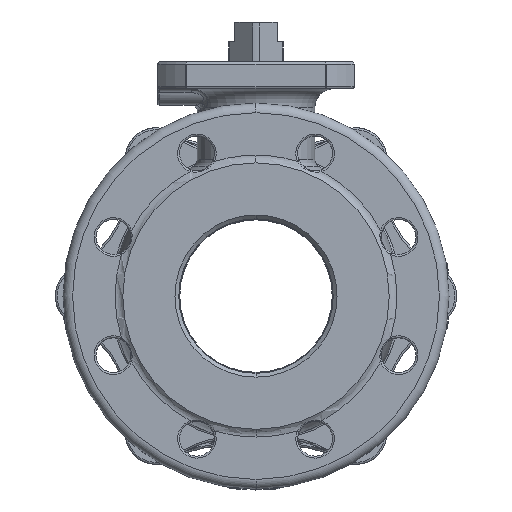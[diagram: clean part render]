
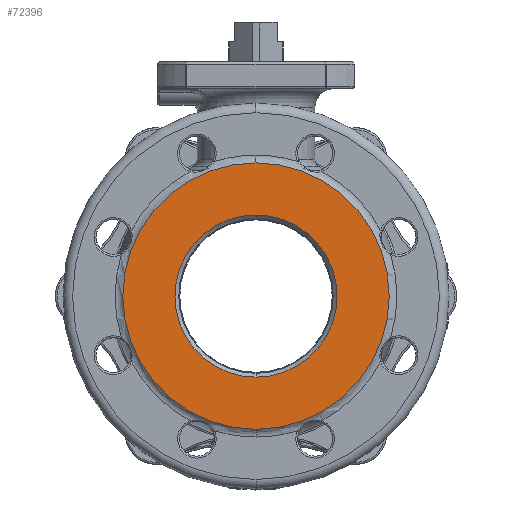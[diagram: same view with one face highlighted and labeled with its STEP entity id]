
A CAD part, left-side view. The second image highlights one B-rep face of the part: STEP entity #72396.
In plain terms, the highlighted planar face has unit normal (-1, 0, 0).
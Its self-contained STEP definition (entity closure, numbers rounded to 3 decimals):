
#19940=CARTESIAN_POINT('',(-65.,0.,0.));
#19941=DIRECTION('',(-1.,0.,0.));
#19942=DIRECTION('',(0.,0.,-1.));
#19943=AXIS2_PLACEMENT_3D('',#19940,#19941,#19942);
#19945=CARTESIAN_POINT('',(-65.,0.,0.));
#19946=DIRECTION('',(-1.,0.,0.));
#19947=DIRECTION('',(0.,0.,1.));
#19948=AXIS2_PLACEMENT_3D('',#19945,#19946,#19947);
#19950=CARTESIAN_POINT('',(-65.,0.,0.));
#19951=DIRECTION('',(-1.,0.,0.));
#19952=DIRECTION('',(0.,0.,1.));
#19953=AXIS2_PLACEMENT_3D('',#19950,#19951,#19952);
#19955=CARTESIAN_POINT('',(-65.,0.,0.));
#19956=DIRECTION('',(1.,0.,0.));
#19957=DIRECTION('',(0.,0.,1.));
#19958=AXIS2_PLACEMENT_3D('',#19955,#19956,#19957);
#35458=CARTESIAN_POINT('',(-65.,0.,42.));
#35459=CARTESIAN_POINT('',(-65.,0.,-42.));
#35460=VERTEX_POINT('',#35458);
#35461=VERTEX_POINT('',#35459);
#37333=CARTESIAN_POINT('',(-65.,0.,-69.));
#37334=CARTESIAN_POINT('',(-65.,0.,69.));
#37335=VERTEX_POINT('',#37333);
#37336=VERTEX_POINT('',#37334);
#72382=CARTESIAN_POINT('',(-65.,0.,0.));
#72383=DIRECTION('',(-1.,0.,0.));
#72384=DIRECTION('',(0.,0.,1.));
#72385=AXIS2_PLACEMENT_3D('',#72382,#72383,#72384);
#72386=PLANE('',#72385);
#72388=ORIENTED_EDGE('',*,*,#72387,.F.);
#72389=ORIENTED_EDGE('',*,*,#72357,.F.);
#72390=EDGE_LOOP('',(#72388,#72389));
#72391=FACE_OUTER_BOUND('',#72390,.F.);
#72392=ORIENTED_EDGE('',*,*,#42566,.T.);
#72393=ORIENTED_EDGE('',*,*,#42551,.F.);
#72394=EDGE_LOOP('',(#72392,#72393));
#72395=FACE_BOUND('',#72394,.F.);
#19944=CIRCLE('',#19943,69.);
#19949=CIRCLE('',#19948,69.);
#19954=CIRCLE('',#19953,42.);
#19959=CIRCLE('',#19958,42.);
#42551=EDGE_CURVE('',#35460,#35461,#19959,.T.);
#42566=EDGE_CURVE('',#35460,#35461,#19954,.T.);
#72357=EDGE_CURVE('',#37336,#37335,#19949,.T.);
#72387=EDGE_CURVE('',#37335,#37336,#19944,.T.);
#72396=ADVANCED_FACE('',(#72391,#72395),#72386,.T.);
